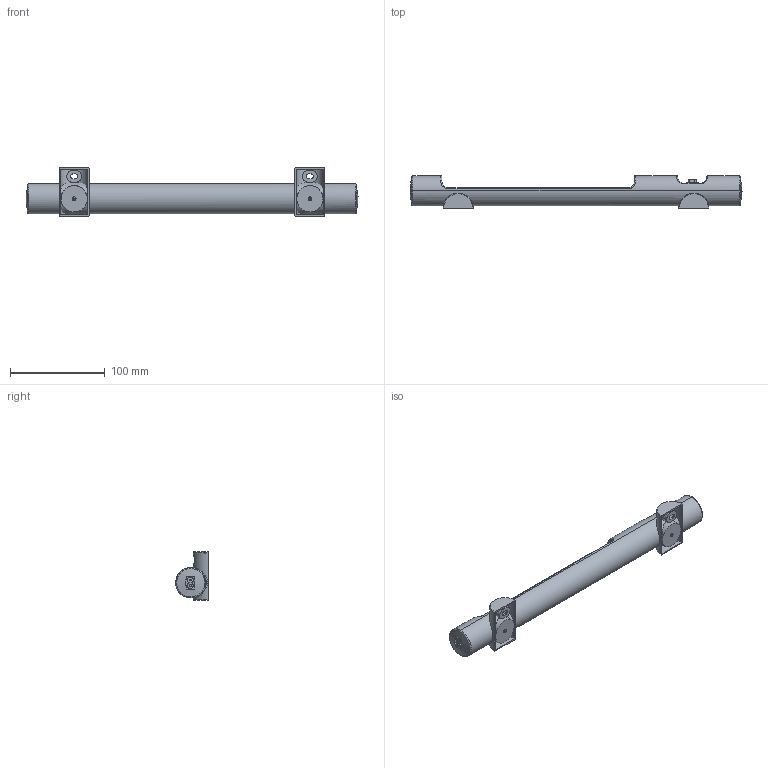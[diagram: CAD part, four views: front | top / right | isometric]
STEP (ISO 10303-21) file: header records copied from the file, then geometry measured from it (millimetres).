
FILE_DESCRIPTION (( 'STEP AP203' ), '1' );
FILE_NAME ('leda1s35.STEP', '2012-06-27T18:22:07', ( 'User' ), ( 'Pentair Inc' ), 'SwSTEP 2.0', 'SolidWorks 2010', '' );
FILE_SCHEMA (( 'CONFIG_CONTROL_DESIGN' ));
Length unit declared in the file: inch
Products named in the file (3): leda1s35; 89089276_AC 240V; 89089277
Assembly tree (3 placements, depth 2):
  leda1s35
    89089276_AC 240V
    89089277  x2
Bounding box: 350.52 x 34.42 x 50.8 mm (x, y, z)
Volume: 205171.4 mm3; surface area: 67225.7 mm2
Topology: 3 solids, 4 shells, 497 faces, 1179 edges, 770 vertices
Faces by surface type: plane 331, cylinder 102, bspline 38, torus 20, cone 6
Entity records: 18224 total; most frequent: CARTESIAN_POINT 7882, ORIENTED_EDGE 2082, DIRECTION 1936, EDGE_CURVE 1041, LINE 760, VECTOR 760, VERTEX_POINT 680, AXIS2_PLACEMENT_3D 588
